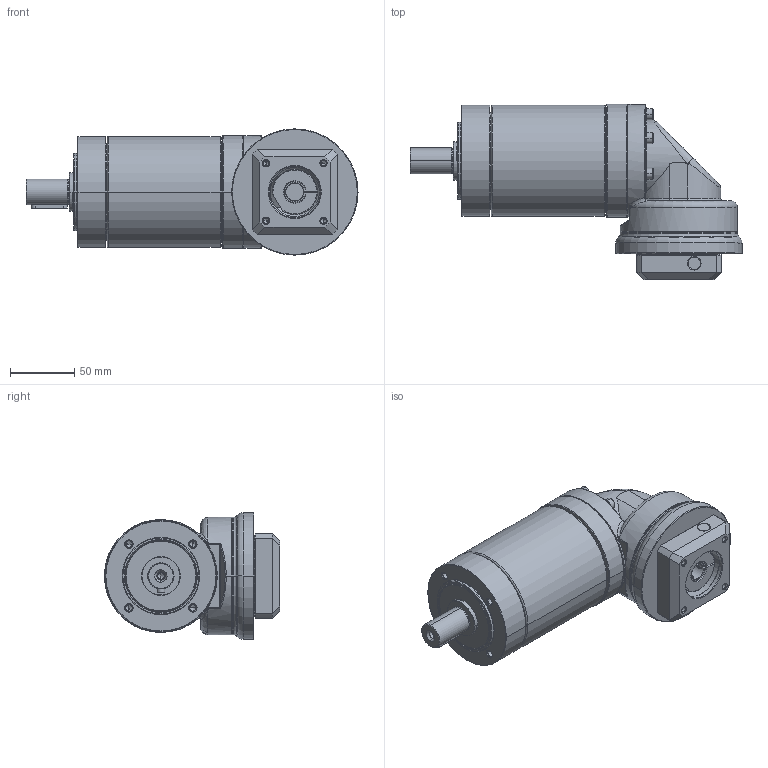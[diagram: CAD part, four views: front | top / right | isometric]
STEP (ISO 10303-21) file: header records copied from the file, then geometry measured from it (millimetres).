
FILE_DESCRIPTION((''),'2;1');
FILE_NAME('PG2R-080_3ST_14-P0411300101_ASM','2016-04-27T',('d01943'),(''),'PRO/ENGINEER BY PARAMETRIC TECHNOLOGY CORPORATION, 2008410','PRO/ENGINEER BY PARAMETRIC TECHNOLOGY CORPORATION, 2008410','');
FILE_SCHEMA(('CONFIG_CONTROL_DESIGN'));
Length unit declared in the file: millimetre
Products named in the file (12): P1325310001; P0273300001; P0350301103; P1349300001; P1017300001; P0713300001; P0503300005; P1350300001; P0411300101; P1702300001; 2111BA05025; PG2R-080_3ST_14-P0411300101_ASM
Assembly tree (16 placements, depth 2):
  PG2R-080_3ST_14-P0411300101_ASM
    P1325310001
    P0273300001
    P0350301103
    P1349300001
    P1017300001
    P0713300001
    P0503300005
    P1350300001
    P0411300101
    P1702300001
    2111BA05025  x6
Bounding box: 257.5 x 135.75 x 98 mm (x, y, z)
Volume: 783162.8 mm3; surface area: 201950.5 mm2
Topology: 16 solids, 17 shells, 795 faces, 1745 edges, 1014 vertices
Faces by surface type: cylinder 252, cone 222, plane 191, torus 98, bspline 32
Entity records: 22990 total; most frequent: CARTESIAN_POINT 8744, DIRECTION 3181, ORIENTED_EDGE 2738, EDGE_CURVE 1369, AXIS2_PLACEMENT_3D 1344, VERTEX_POINT 814, EDGE_LOOP 721, CIRCLE 718
